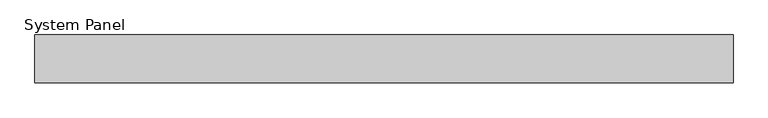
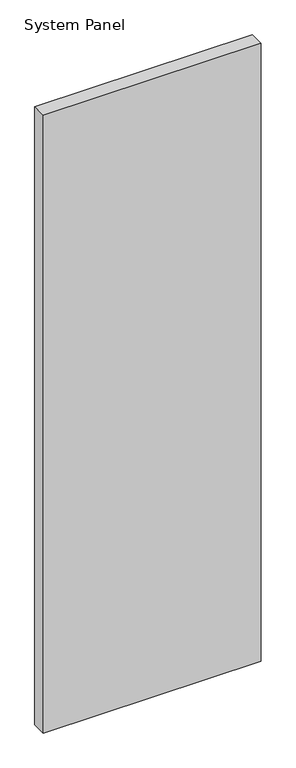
"""IFC4 building model written with IfcOpenShell, lengths in millimetres: plate geometry, System Panel : MetecnoPanel 75mm Vertical - Plain Astro - PIR."""

import ifcopenshell
import ifcopenshell.guid

model = None  # the IFC model being written
_history = None  # IfcOwnerHistory: only IFC2X3 demands one
_inside = {}  # id of a spatial element -> (the spatial element, [elements in it])
_under = {}  # id of a project, library or spatial element -> (it, [spatial elements below it])
_declared = {}  # id of a project -> (the project, [libraries it declares])
_typed = {}  # id of a type object -> (the type object, [elements of that type])
_made_of = {}  # id of a material, layer set ... -> (it, [elements and type objects made of it])


def new_model(schema):
    """Start an empty IFC model of exactly this schema.

    Asked for "IFC4X3", IfcOpenShell would pick the latest addendum, in which some entities
    have other attributes; the version numbers below select the first issue.
    IFC2X3 requires an IfcOwnerHistory on every rooted entity: one is made here for all.
    """
    global model, _history
    if schema == "IFC4X3":
        model = ifcopenshell.file(schema_version=(4, 3, 0, 0))
    else:
        model = ifcopenshell.file(schema=schema)
    _inside.clear()
    _under.clear()
    _declared.clear()
    _typed.clear()
    _made_of.clear()
    _history = None
    if model.schema == "IFC2X3":
        org = make("IfcOrganization", Name="unknown")
        user = make(
            "IfcPersonAndOrganization",
            ThePerson=make("IfcPerson", FamilyName="unknown"),
            TheOrganization=org,
        )
        app = make(
            "IfcApplication",
            ApplicationDeveloper=org,
            Version="unknown",
            ApplicationFullName="unknown",
            ApplicationIdentifier="unknown",
        )
        _history = make(
            "IfcOwnerHistory",
            OwningUser=user,
            OwningApplication=app,
            ChangeAction="ADDED",
            CreationDate=0,
        )
    return model


def make(cls, **values):
    """One entity of the class cls with the attributes given. An attribute that is None is left unset."""
    return model.create_entity(
        cls, **{name: value for name, value in values.items() if value is not None}
    )


def rooted(cls, **values):
    """An entity with a GlobalId (a new one), such as an element, a storey or a relation."""
    return make(cls, GlobalId=ifcopenshell.guid.new(), OwnerHistory=_history, **values)


def si_unit(unit_type, name, prefix=None):
    """IfcSIUnit, for example si_unit("LENGTHUNIT", "METRE", prefix="MILLI")."""
    return make("IfcSIUnit", UnitType=unit_type, Prefix=prefix, Name=name)


def assignment(units):
    """IfcUnitAssignment: the units of a project."""
    return None if units is None else make("IfcUnitAssignment", Units=units)


def point(xyz):
    """IfcCartesianPoint."""
    return None if xyz is None else make("IfcCartesianPoint", Coordinates=xyz)


def direction(xyz):
    """IfcDirection."""
    return None if xyz is None else make("IfcDirection", DirectionRatios=xyz)


def frame(location, z_axis=None, x_axis=None):
    """IfcAxis2Placement3D, a coordinate frame: its origin and axes. An axis left out is left unset."""
    return make(
        "IfcAxis2Placement3D",
        Location=point(location),
        Axis=direction(z_axis),
        RefDirection=direction(x_axis),
    )


def origin():
    """The frame at (0, 0, 0) with its axes left unset."""
    return frame((0.0, 0.0, 0.0))


def origin_with_axes():
    """The frame at (0, 0, 0) with the z axis (0, 0, 1) and the x axis (1, 0, 0) written out."""
    return frame((0.0, 0.0, 0.0), z_axis=(0.0, 0.0, 1.0), x_axis=(1.0, 0.0, 0.0))


def place(relative_to, where):
    """IfcLocalPlacement: puts the frame where relative to a parent placement (None: the world)."""
    return make(
        "IfcLocalPlacement", PlacementRelTo=relative_to, RelativePlacement=where
    )


def context(
    kind, dimensions, precision=None, world=None, true_north=None, identifier=None
):
    """IfcGeometricRepresentationContext, for example the 3D "Model" context."""
    return make(
        "IfcGeometricRepresentationContext",
        ContextIdentifier=identifier,
        ContextType=kind,
        CoordinateSpaceDimension=dimensions,
        Precision=precision,
        WorldCoordinateSystem=world,
        TrueNorth=true_north,
    )


def project(units=None, contexts=None):
    """IfcProject with its units and contexts."""
    return rooted(
        "IfcProject",
        Name="project",
        RepresentationContexts=contexts,
        UnitsInContext=assignment(units),
    )


def spatial(cls, under=None, at=None, **own):
    """A site, building, storey or space (cls), placed at a placement, below another one or the project."""
    s = rooted(cls, ObjectPlacement=at, **own)
    if under is not None:
        _under.setdefault(under.id(), (under, []))[1].append(s)
    return s


def polyline(points):
    """IfcPolyline through the points."""
    return make("IfcPolyline", Points=[point(p) for p in points])


def outline(outer, holes=None, kind="AREA"):
    """IfcArbitraryClosedProfileDef: a profile drawn as a closed curve; with holes, ...WithVoids."""
    if holes is None:
        return make("IfcArbitraryClosedProfileDef", ProfileType=kind, OuterCurve=outer)
    return make(
        "IfcArbitraryProfileDefWithVoids",
        ProfileType=kind,
        OuterCurve=outer,
        InnerCurves=holes,
    )


def extrude(swept, where, along, depth):
    """IfcExtrudedAreaSolid: the profile swept, set in the frame where, extruded along a direction by depth."""
    return make(
        "IfcExtrudedAreaSolid",
        SweptArea=swept,
        Position=where,
        ExtrudedDirection=direction(along),
        Depth=depth,
    )


def shape(context_of_items, identifier, shape_type, items):
    """IfcShapeRepresentation: the items that make up one representation, for example the "Body"."""
    return make(
        "IfcShapeRepresentation",
        ContextOfItems=context_of_items,
        RepresentationIdentifier=identifier,
        RepresentationType=shape_type,
        Items=items,
    )


def source(mapping_origin, context_of_items, identifier, shape_type, items):
    """IfcRepresentationMap: a shape defined once, which mapped items show again and again."""
    return make(
        "IfcRepresentationMap",
        MappingOrigin=mapping_origin,
        MappedRepresentation=shape(context_of_items, identifier, shape_type, items),
    )


def transform(
    local_origin,
    x_axis=None,
    y_axis=None,
    z_axis=None,
    scale=None,
    scale2=None,
    scale3=None,
    uniform=True,
):
    """IfcCartesianTransformationOperator3D, or its non-uniform kind. x_axis, y_axis, z_axis: its Axis1, 2, 3."""
    if uniform:
        return make(
            "IfcCartesianTransformationOperator3D",
            Axis1=direction(x_axis),
            Axis2=direction(y_axis),
            LocalOrigin=point(local_origin),
            Scale=scale,
            Axis3=direction(z_axis),
        )
    return make(
        "IfcCartesianTransformationOperator3DnonUniform",
        Axis1=direction(x_axis),
        Axis2=direction(y_axis),
        LocalOrigin=point(local_origin),
        Scale=scale,
        Axis3=direction(z_axis),
        Scale2=scale2,
        Scale3=scale3,
    )


def mapped(mapping_source, mapping_target):
    """IfcMappedItem: shows the shape of a source again, moved by a transform."""
    return make(
        "IfcMappedItem", MappingSource=mapping_source, MappingTarget=mapping_target
    )


def made_of(thing, what):
    """Note that an element or type object is made of a material, layer set ...; save() writes the relation."""
    if what is not None:
        _made_of.setdefault(what.id(), (what, []))[1].append(thing)
    return thing


def element(
    cls,
    number,
    at=None,
    inside=None,
    cuts=None,
    type_object=None,
    material=None,
    context=None,
    identifier="Body",
    shape_type=None,
    held_by="IfcProductDefinitionShape",
    body=None,
    shapes=None,
    **own,
):
    """One element of the class cls, such as IfcWall. Its Tag is "e" and its number.

    at: its placement. inside: the storey or other place that contains it. cuts: it is an
    opening in that element (IfcRelVoidsElement). A single representation is given by context,
    identifier, shape_type and body (its items); several are given by shapes. held_by: the class
    of the entity that holds the representations. save() writes the other relations.
    """
    e = rooted(cls, Tag="e%d" % number, ObjectPlacement=at, **own)
    if body is not None:
        shapes = [shape(context, identifier, shape_type, body)]
    if shapes is not None:
        e.Representation = make(held_by, Representations=shapes)
    if inside is not None:
        _inside.setdefault(inside.id(), (inside, []))[1].append(e)
    if cuts is not None:
        rooted(
            "IfcRelVoidsElement", RelatingBuildingElement=cuts, RelatedOpeningElement=e
        )
    if type_object is not None:
        _typed.setdefault(type_object.id(), (type_object, []))[1].append(e)
    return made_of(e, material)


def aggregate(whole, parts):
    """IfcRelAggregates: a whole, such as a stair, and the parts it consists of."""
    return rooted("IfcRelAggregates", RelatingObject=whole, RelatedObjects=parts)


def save(model, path):
    """Write the relations noted so far, then the file.

    IfcRelAggregates (storeys below a building ...), IfcRelContainedInSpatialStructure (elements
    in a storey), IfcRelDefinesByType, IfcRelAssociatesMaterial and IfcRelDeclares: one each for
    every whole, place, type object, material and project.
    """
    for whole, parts in _under.values():
        aggregate(whole, parts)
    for where, things in _inside.values():
        rooted(
            "IfcRelContainedInSpatialStructure",
            RelatedElements=things,
            RelatingStructure=where,
        )
    for kind, things in _typed.values():
        rooted("IfcRelDefinesByType", RelatedObjects=things, RelatingType=kind)
    for what, things in _made_of.values():
        rooted("IfcRelAssociatesMaterial", RelatedObjects=things, RelatingMaterial=what)
    for by, libraries in _declared.values():
        rooted("IfcRelDeclares", RelatingContext=by, RelatedDefinitions=libraries)
    model.write(path)


def system_panel_6d159058(model_context):
    return source(origin(), model_context, "Body", "SweptSolid", [
        extrude(outline(polyline([(550.0, 0.0), (-550.0, 0.0), (-550.0, 75.0), (550.0, 75.0), (550.0, 0.0)])), origin_with_axes(), (0.0, 0.0, 1.0), 3300.0),
    ])


if __name__ == "__main__":
    model = new_model("IFC4")
    model_context = context("Model", 3, world=origin())
    ifc_project = project(units=[si_unit("LENGTHUNIT", "METRE", prefix="MILLI")], contexts=[model_context])
    site = spatial("IfcSite", under=ifc_project)
    building = spatial("IfcBuilding", under=site)
    placement = place(None, origin())
    system_panel_shape = system_panel_6d159058(model_context)
    element("IfcPlate", 1, ObjectType="System Panel : MetecnoPanel 75mm Vertical - Plain Astro - PIR", at=placement, inside=building, context=model_context, shape_type="MappedRepresentation", body=[
        mapped(system_panel_shape, transform((0.0, 0.0, 0.0), x_axis=(1.0, 0.0, 0.0), y_axis=(0.0, 1.0, 0.0), z_axis=(0.0, 0.0, 1.0))),
    ])
    save(model, "model.ifc")
